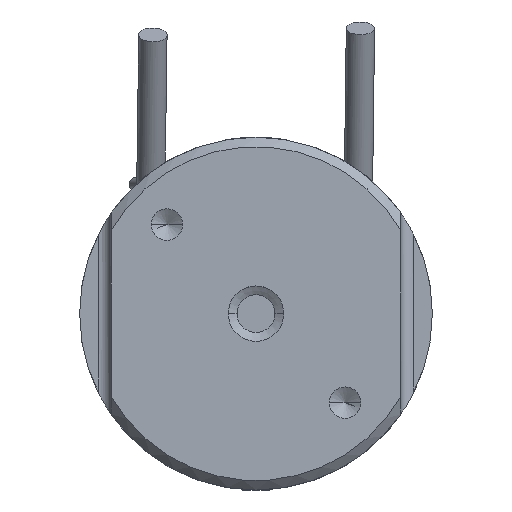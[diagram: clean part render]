
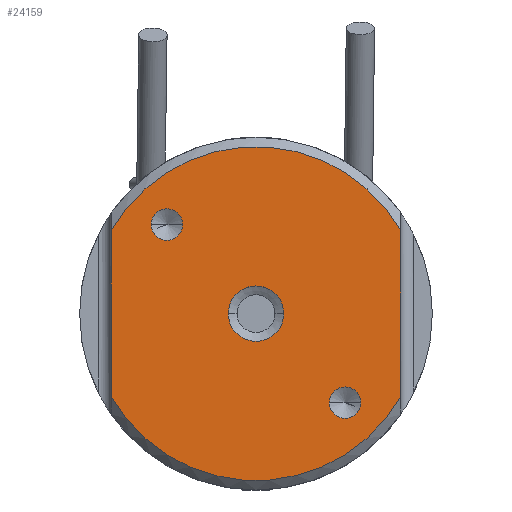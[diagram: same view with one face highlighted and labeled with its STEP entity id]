
A CAD part, front view. The second image highlights one B-rep face of the part: STEP entity #24159.
In plain terms, the highlighted planar face has unit normal (0, -1, 0).
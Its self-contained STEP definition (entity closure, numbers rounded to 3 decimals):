
#312 = EDGE_CURVE ( 'NONE', #29461, #24258, #14276, .T. ) ;
#359 = EDGE_CURVE ( 'NONE', #5996, #5654, #15076, .T. ) ;
#386 = DIRECTION ( 'NONE',  ( 0., -1., 0. ) ) ;
#619 = EDGE_LOOP ( 'NONE', ( #11224, #16537 ) ) ;
#661 = VERTEX_POINT ( 'NONE', #15470 ) ;
#1734 = AXIS2_PLACEMENT_3D ( 'NONE', #22161, #22056, #21983 ) ;
#2657 = CIRCLE ( 'NONE', #12071, 2.5 ) ;
#3378 = CARTESIAN_POINT ( 'NONE',  ( 11.644, -20., -14.14 ) ) ;
#3779 = EDGE_CURVE ( 'NONE', #4299, #21889, #12705, .T. ) ;
#4299 = VERTEX_POINT ( 'NONE', #9398 ) ;
#4542 = AXIS2_PLACEMENT_3D ( 'NONE', #21032, #20998, #20961 ) ;
#5328 = FACE_BOUND ( 'NONE', #619, .T. ) ;
#5654 = VERTEX_POINT ( 'NONE', #20605 ) ;
#5754 = CARTESIAN_POINT ( 'NONE',  ( -4.4, -20., -0.001 ) ) ;
#5996 = VERTEX_POINT ( 'NONE', #6413 ) ;
#6413 = CARTESIAN_POINT ( 'NONE',  ( 22.998, -20., 13.166 ) ) ;
#7564 = CARTESIAN_POINT ( 'NONE',  ( -11.644, -20., 14.14 ) ) ;
#7747 = DIRECTION ( 'NONE',  ( 0., -1., 0. ) ) ;
#7817 = EDGE_CURVE ( 'NONE', #25382, #24647, #28478, .T. ) ;
#8416 = ORIENTED_EDGE ( 'NONE', *, *, #13864, .F. ) ;
#8789 = EDGE_LOOP ( 'NONE', ( #8416, #30475, #9146, #31308 ) ) ;
#8972 = ORIENTED_EDGE ( 'NONE', *, *, #15493, .F. ) ;
#9146 = ORIENTED_EDGE ( 'NONE', *, *, #20657, .F. ) ;
#9398 = CARTESIAN_POINT ( 'NONE',  ( 16.644, -20., -14.14 ) ) ;
#9416 = CARTESIAN_POINT ( 'NONE',  ( -14.144, -20., 14.14 ) ) ;
#10114 = VECTOR ( 'NONE', #20882, 1000. ) ;
#10179 = DIRECTION ( 'NONE',  ( 1., 0., 0. ) ) ;
#10193 = AXIS2_PLACEMENT_3D ( 'NONE', #13896, #31245, #16374 ) ;
#10288 = DIRECTION ( 'NONE',  ( 0., -1., 0. ) ) ;
#10394 = CARTESIAN_POINT ( 'NONE',  ( 0., -20., 0. ) ) ;
#11224 = ORIENTED_EDGE ( 'NONE', *, *, #3779, .F. ) ;
#11632 = AXIS2_PLACEMENT_3D ( 'NONE', #27202, #12312, #29668 ) ;
#11743 = LINE ( 'NONE', #18196, #30161 ) ;
#11934 = DIRECTION ( 'NONE',  ( 1., 0., 0. ) ) ;
#12071 = AXIS2_PLACEMENT_3D ( 'NONE', #9416, #26798, #11934 ) ;
#12312 = DIRECTION ( 'NONE',  ( 0., -1., 0. ) ) ;
#12705 = CIRCLE ( 'NONE', #22332, 2.5 ) ;
#12795 = FACE_BOUND ( 'NONE', #21031, .T. ) ;
#12994 = ORIENTED_EDGE ( 'NONE', *, *, #21401, .F. ) ;
#13284 = AXIS2_PLACEMENT_3D ( 'NONE', #10394, #10288, #10179 ) ;
#13864 = EDGE_CURVE ( 'NONE', #25382, #5654, #29134, .T. ) ;
#13896 = CARTESIAN_POINT ( 'NONE',  ( 0., -20., 0. ) ) ;
#14132 = CIRCLE ( 'NONE', #10193, 4.4 ) ;
#14276 = CIRCLE ( 'NONE', #1734, 4.4 ) ;
#14345 = EDGE_CURVE ( 'NONE', #21889, #4299, #29161, .T. ) ;
#15076 = CIRCLE ( 'NONE', #4542, 26.5 ) ;
#15361 = CARTESIAN_POINT ( 'NONE',  ( 0., -20., 0. ) ) ;
#15470 = CARTESIAN_POINT ( 'NONE',  ( -16.644, -20., 14.14 ) ) ;
#15493 = EDGE_CURVE ( 'NONE', #31995, #661, #2657, .T. ) ;
#16374 = DIRECTION ( 'NONE',  ( 1., 0., 0. ) ) ;
#16537 = ORIENTED_EDGE ( 'NONE', *, *, #14345, .F. ) ;
#16857 = EDGE_CURVE ( 'NONE', #24258, #29461, #14132, .T. ) ;
#17941 = DIRECTION ( 'NONE',  ( 1., 0., 0. ) ) ;
#18196 = CARTESIAN_POINT ( 'NONE',  ( 23., -20., 0.004 ) ) ;
#18589 = ORIENTED_EDGE ( 'NONE', *, *, #312, .F. ) ;
#20013 = CARTESIAN_POINT ( 'NONE',  ( 4.4, -20., 0.001 ) ) ;
#20536 = DIRECTION ( 'NONE',  ( 1., 0., 0. ) ) ;
#20605 = CARTESIAN_POINT ( 'NONE',  ( -23.002, -20., 13.159 ) ) ;
#20614 = DIRECTION ( 'NONE',  ( 0., -1., 0. ) ) ;
#20639 = CARTESIAN_POINT ( 'NONE',  ( 14.144, -20., -14.14 ) ) ;
#20646 = EDGE_LOOP ( 'NONE', ( #8972, #12994 ) ) ;
#20657 = EDGE_CURVE ( 'NONE', #5996, #24647, #11743, .T. ) ;
#20686 = DIRECTION ( 'NONE',  ( 0., 0., -1. ) ) ;
#20882 = DIRECTION ( 'NONE',  ( 0., 0., 1. ) ) ;
#20901 = FACE_OUTER_BOUND ( 'NONE', #8789, .T. ) ;
#20961 = DIRECTION ( 'NONE',  ( 1., 0., 0. ) ) ;
#20998 = DIRECTION ( 'NONE',  ( 0., -1., 0. ) ) ;
#21031 = EDGE_LOOP ( 'NONE', ( #18589, #25251 ) ) ;
#21032 = CARTESIAN_POINT ( 'NONE',  ( 0., -20., 0. ) ) ;
#21401 = EDGE_CURVE ( 'NONE', #661, #31995, #29003, .T. ) ;
#21889 = VERTEX_POINT ( 'NONE', #3378 ) ;
#21983 = DIRECTION ( 'NONE',  ( 1., 0., 0. ) ) ;
#22056 = DIRECTION ( 'NONE',  ( 0., -1., 0. ) ) ;
#22161 = CARTESIAN_POINT ( 'NONE',  ( 0., -20., 0. ) ) ;
#22332 = AXIS2_PLACEMENT_3D ( 'NONE', #20639, #20614, #20536 ) ;
#22606 = CARTESIAN_POINT ( 'NONE',  ( 14.144, -20., -14.14 ) ) ;
#24159 = ADVANCED_FACE ( 'NONE', ( #26010, #5328, #12795, #20901 ), #30329, .T. ) ;
#24212 = CARTESIAN_POINT ( 'NONE',  ( 23.002, -20., -13.159 ) ) ;
#24258 = VERTEX_POINT ( 'NONE', #5754 ) ;
#24647 = VERTEX_POINT ( 'NONE', #24212 ) ;
#25143 = DIRECTION ( 'NONE',  ( 1., 0., 0. ) ) ;
#25251 = ORIENTED_EDGE ( 'NONE', *, *, #16857, .F. ) ;
#25382 = VERTEX_POINT ( 'NONE', #31769 ) ;
#25608 = AXIS2_PLACEMENT_3D ( 'NONE', #15361, #386, #17941 ) ;
#26010 = FACE_BOUND ( 'NONE', #20646, .T. ) ;
#26798 = DIRECTION ( 'NONE',  ( 0., -1., 0. ) ) ;
#27202 = CARTESIAN_POINT ( 'NONE',  ( -14.144, -20., 14.14 ) ) ;
#28330 = CARTESIAN_POINT ( 'NONE',  ( -23., -20., -0.004 ) ) ;
#28478 = CIRCLE ( 'NONE', #13284, 26.5 ) ;
#29003 = CIRCLE ( 'NONE', #11632, 2.5 ) ;
#29134 = LINE ( 'NONE', #28330, #10114 ) ;
#29161 = CIRCLE ( 'NONE', #31138, 2.5 ) ;
#29461 = VERTEX_POINT ( 'NONE', #20013 ) ;
#29668 = DIRECTION ( 'NONE',  ( 1., 0., 0. ) ) ;
#30161 = VECTOR ( 'NONE', #20686, 1000. ) ;
#30329 = PLANE ( 'NONE',  #25608 ) ;
#30475 = ORIENTED_EDGE ( 'NONE', *, *, #7817, .T. ) ;
#31138 = AXIS2_PLACEMENT_3D ( 'NONE', #22606, #7747, #25143 ) ;
#31245 = DIRECTION ( 'NONE',  ( 0., -1., 0. ) ) ;
#31308 = ORIENTED_EDGE ( 'NONE', *, *, #359, .T. ) ;
#31769 = CARTESIAN_POINT ( 'NONE',  ( -22.998, -20., -13.166 ) ) ;
#31995 = VERTEX_POINT ( 'NONE', #7564 ) ;
